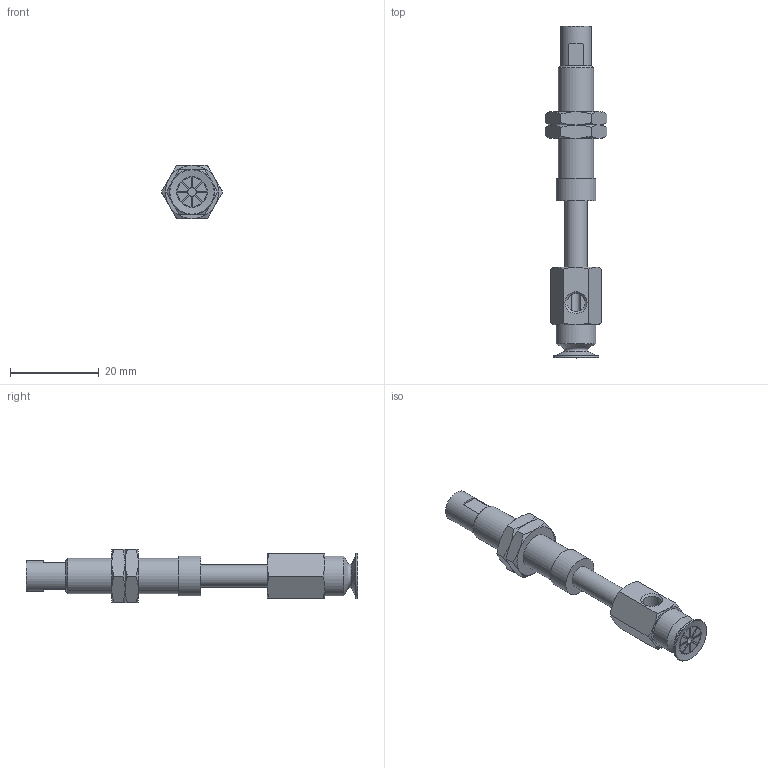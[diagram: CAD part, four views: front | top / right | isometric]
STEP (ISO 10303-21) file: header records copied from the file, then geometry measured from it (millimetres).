
FILE_DESCRIPTION(('STEP AP203'),'1');
FILE_NAME('.stp','2025-02-11T07:40:49',(' '),(' '),'Spatial InterOp 3D',' ',' ');
FILE_SCHEMA(('CONFIG_CONTROL_DESIGN'));
Length unit declared in the file: millimetre
Products named in the file (6): BNABPAYS-10B-15-※; NAPAYS-10A-15--M; NAPAYS-10A-15--F; Nut-10A-S; CONNECTOR-10A-15-PA; BPAG-10B-※_3D
Assembly tree (6 placements, depth 2):
  BNABPAYS-10B-15-※
    NAPAYS-10A-15--M
    NAPAYS-10A-15--F
    Nut-10A-S  x2
    CONNECTOR-10A-15-PA
    BPAG-10B-※_3D
Bounding box: 13.86 x 75 x 12 mm (x, y, z)
Volume: 3958.3 mm3; surface area: 4807.6 mm2
Topology: 6 solids, 6 shells, 163 faces, 370 edges, 228 vertices
Faces by surface type: plane 75, cone 51, cylinder 26, torus 11
Full cylindrical faces by diameter (mm): 2 x2, 4 x2, 4.134 x2, 5 x3, 6 x2, 7 x2, 7.188 x2, 8 x1, 9 x2
Entity records: 4226 total; most frequent: CARTESIAN_POINT 961, DIRECTION 630, ORIENTED_EDGE 548, EDGE_CURVE 274, AXIS2_PLACEMENT_3D 263, EDGE_LOOP 198, VERTEX_POINT 192, FACE_OUTER_BOUND 168
